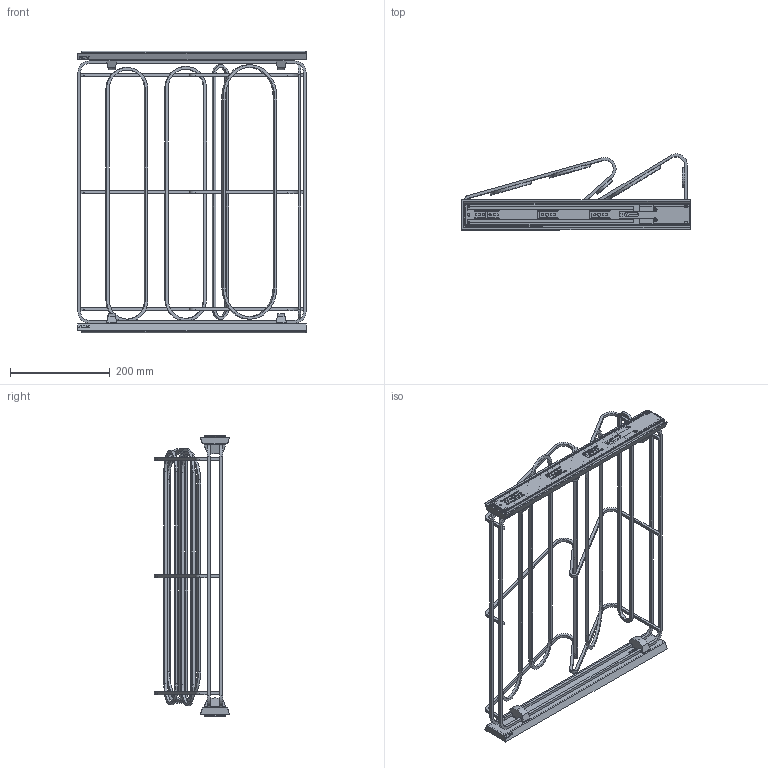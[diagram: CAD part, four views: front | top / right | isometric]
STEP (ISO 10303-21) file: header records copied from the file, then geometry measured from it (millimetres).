
FILE_DESCRIPTION(/* description */ (''),/* implementation_level */ '2;1');
FILE_NAME(/* name */ 'D:\$Workingspace\Designs\Meblowka\uproszczenia\garderoba smart\W-WOBU…-VE.stp',/* time_stamp */ '2019-01-02T08:47:00+01:00',/* author */ ('tomaszw'),/* organization */ (''),/* preprocessor_version */ 'ST-DEVELOPER v17',/* originating_system */ 'Autodesk Inventor 2019',/* authorisation */ '');
FILE_SCHEMA (('AUTOMOTIVE_DESIGN { 1 0 10303 214 3 1 1 }'));
Length unit declared in the file: millimetre
Products named in the file (17): złożenie z koszem 11_2017; PK-L-H45-450; PK-L-H45_1-450; PK-L-H45_2-450; PK-L-H45_3-450; PK-L-H45_4; PK-L-H45_5; GTV_D_02_01; drut nośny buciarki; wzmocnienie buciarki duze; drut dół; wzmocnienie buciarki duze_1; wzmocnienie buciarki duze_2; PPD_2; SM 4x16; MD_1_02; DD_3_01
Assembly tree (36 placements, depth 3):
  złożenie z koszem 11_2017
    PK-L-H45-450
      PK-L-H45_1-450  x2
      PK-L-H45_2-450  x2
      PK-L-H45_3-450  x2
      PK-L-H45_4  x2
      PK-L-H45_5  x2
    PPD_2  x2
    GTV_D_02_01
      drut nośny buciarki  x3
      wzmocnienie buciarki duze_2  x2
      wzmocnienie buciarki duze
      wzmocnienie buciarki duze_1  x2
      drut dół  x2
    SM 4x16  x4
    DD_3_01  x4
    MD_1_02  x4
Bounding box: 458.03 x 151.77 x 564 mm (x, y, z)
Volume: 773513.5 mm3; surface area: 749315.5 mm2
Topology: 36 solids, 36 shells, 1874 faces, 5210 edges, 3480 vertices
Faces by surface type: plane 1290, cylinder 372, bspline 172, cone 40
Full cylindrical faces by diameter (mm): 4 x4, 4.2 x4, 4.3 x6, 4.5 x14, 6.2 x4, 7.2 x4, 8 x4, 8.3 x2
Entity records: 24972 total; most frequent: CARTESIAN_POINT 5146, ORIENTED_EDGE 4088, DIRECTION 3765, EDGE_CURVE 2044, LINE 1535, VECTOR 1535, VERTEX_POINT 1362, AXIS2_PLACEMENT_3D 1115
